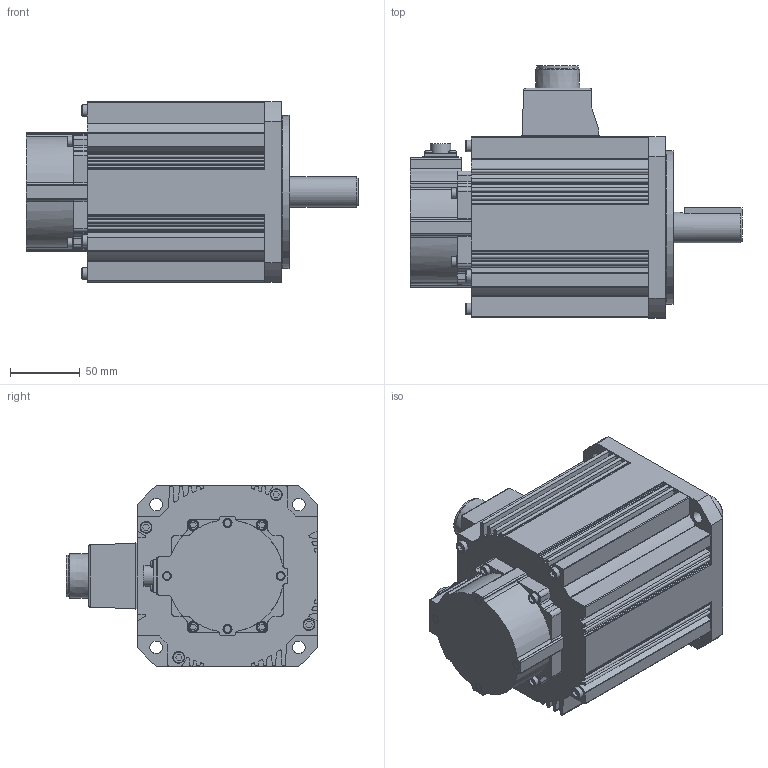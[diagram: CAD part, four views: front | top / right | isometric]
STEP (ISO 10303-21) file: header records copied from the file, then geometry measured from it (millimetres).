
FILE_DESCRIPTION( ( 'STEP AP0' ), '1' );
FILE_NAME( '//expscmdclustefs.cadenas.external/client_exchange/iodir/jobs/output/wkb64902688_no0/STEP/MDME152G1H_2_03.stp', ' ', ( ' ' ), ( ' ' ), 'PSStep 15.0.47', 'PARTsolutions', ' ' );
FILE_SCHEMA( ( 'CONFIG_CONTROL_DESIGN' ) );
Length unit declared in the file: millimetre
Products named in the file (1): HI_MDME152G1H
Bounding box: 238.5 x 181 x 130 mm (x, y, z)
Volume: 2442530.5 mm3; surface area: 159822.9 mm2
Topology: 1 solids, 1 shells, 544 faces, 1436 edges, 942 vertices
Faces by surface type: plane 281, cylinder 224, cone 18, torus 17, sphere 4
Full cylindrical faces by diameter (mm): 2.459 x1, 5.5 x4, 6.5 x4, 7 x4, 8.5 x4, 9 x4, 10.1 x4, 10.5 x4, 14.8 x1, 22 x1, 29.74 x1, 34 x1, 38 x1, 45 x1, 102 x1, 110 x1
Entity records: 16723 total; most frequent: CARTESIAN_POINT 3121, DIRECTION 2901, ORIENTED_EDGE 2708, EDGE_CURVE 1354, AXIS2_PLACEMENT_3D 1037, VERTEX_POINT 935, LINE 827, VECTOR 827
